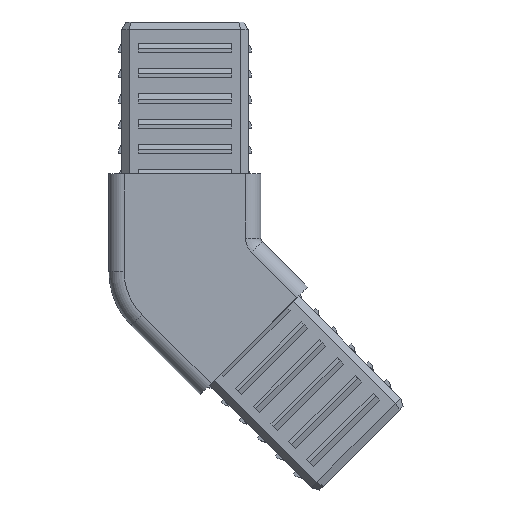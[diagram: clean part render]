
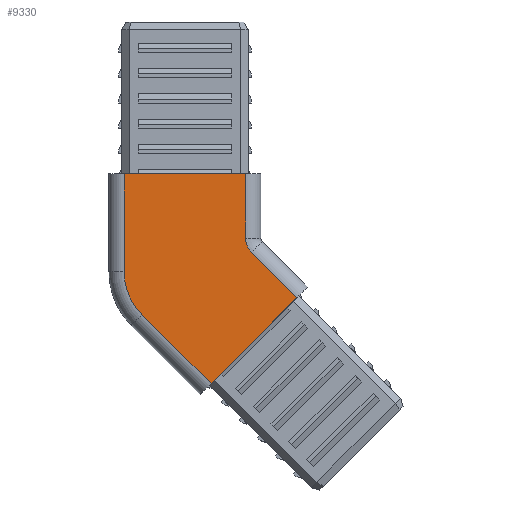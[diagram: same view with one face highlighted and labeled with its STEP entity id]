
A CAD part, top view. The second image highlights one B-rep face of the part: STEP entity #9330.
In plain terms, the highlighted planar face has unit normal (0, 0, 1).
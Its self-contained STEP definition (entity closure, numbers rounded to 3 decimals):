
#59 = DIRECTION ( 'NONE',  ( -1., 0., 0. ) ) ;
#88 = ORIENTED_EDGE ( 'NONE', *, *, #5025, .T. ) ;
#168 = VECTOR ( 'NONE', #6412, 1000. ) ;
#319 = CARTESIAN_POINT ( 'NONE',  ( -12., -1.199, 15. ) ) ;
#425 = VECTOR ( 'NONE', #6638, 1000. ) ;
#428 = VERTEX_POINT ( 'NONE', #319 ) ;
#838 = LINE ( 'NONE', #5176, #7056 ) ;
#897 = ORIENTED_EDGE ( 'NONE', *, *, #8612, .T. ) ;
#1193 = LINE ( 'NONE', #5574, #4576 ) ;
#1349 = EDGE_CURVE ( 'NONE', #2351, #8140, #1193, .T. ) ;
#1389 = EDGE_CURVE ( 'NONE', #8140, #8966, #8306, .T. ) ;
#1645 = EDGE_CURVE ( 'NONE', #428, #3602, #7737, .T. ) ;
#2031 = ORIENTED_EDGE ( 'NONE', *, *, #1389, .T. ) ;
#2145 = DIRECTION ( 'NONE',  ( 0., 0., -1. ) ) ;
#2351 = VERTEX_POINT ( 'NONE', #8792 ) ;
#2357 = EDGE_CURVE ( 'NONE', #2351, #3856, #8325, .T. ) ;
#2411 = AXIS2_PLACEMENT_3D ( 'NONE', #6803, #7600, #8922 ) ;
#2649 = EDGE_CURVE ( 'NONE', #6543, #428, #5392, .T. ) ;
#2854 = VECTOR ( 'NONE', #4629, 1000. ) ;
#3010 = AXIS2_PLACEMENT_3D ( 'NONE', #9358, #2145, #59 ) ;
#3098 = LINE ( 'NONE', #8017, #4229 ) ;
#3179 = CARTESIAN_POINT ( 'NONE',  ( 0., -1.199, 15. ) ) ;
#3602 = VERTEX_POINT ( 'NONE', #7183 ) ;
#3624 = ORIENTED_EDGE ( 'NONE', *, *, #1645, .T. ) ;
#3629 = EDGE_LOOP ( 'NONE', ( #4826, #8826, #2031, #6940, #88, #6903, #3624, #897 ) ) ;
#3856 = VERTEX_POINT ( 'NONE', #7454 ) ;
#3937 = PLANE ( 'NONE',  #2411 ) ;
#4228 = EDGE_CURVE ( 'NONE', #8966, #9034, #3098, .T. ) ;
#4229 = VECTOR ( 'NONE', #7345, 1000. ) ;
#4436 = FACE_OUTER_BOUND ( 'NONE', #3629, .T. ) ;
#4574 = DIRECTION ( 'NONE',  ( 0., 0., 1. ) ) ;
#4576 = VECTOR ( 'NONE', #5664, 1000. ) ;
#4629 = DIRECTION ( 'NONE',  ( -1., 0., 0. ) ) ;
#4793 = LINE ( 'NONE', #8944, #2854 ) ;
#4826 = ORIENTED_EDGE ( 'NONE', *, *, #2357, .F. ) ;
#4835 = AXIS2_PLACEMENT_3D ( 'NONE', #3179, #4574, #6770 ) ;
#5025 = EDGE_CURVE ( 'NONE', #9034, #6543, #4793, .T. ) ;
#5176 = CARTESIAN_POINT ( 'NONE',  ( -9.085, -9.085, 15. ) ) ;
#5258 = DIRECTION ( 'NONE',  ( 0.707, -0.707, 0. ) ) ;
#5392 = LINE ( 'NONE', #9247, #168 ) ;
#5491 = CARTESIAN_POINT ( 'NONE',  ( 13.172, 2.6, 15. ) ) ;
#5574 = CARTESIAN_POINT ( 'NONE',  ( 7.886, 7.886, 15. ) ) ;
#5664 = DIRECTION ( 'NONE',  ( -0.707, 0.707, 0. ) ) ;
#6412 = DIRECTION ( 'NONE',  ( 0., -1., 0. ) ) ;
#6543 = VERTEX_POINT ( 'NONE', #7815 ) ;
#6638 = DIRECTION ( 'NONE',  ( -0.707, -0.707, 0. ) ) ;
#6770 = DIRECTION ( 'NONE',  ( -1., 0., 0. ) ) ;
#6803 = CARTESIAN_POINT ( 'NONE',  ( 0., 0., 15. ) ) ;
#6903 = ORIENTED_EDGE ( 'NONE', *, *, #2649, .T. ) ;
#6940 = ORIENTED_EDGE ( 'NONE', *, *, #4228, .T. ) ;
#7056 = VECTOR ( 'NONE', #5258, 1000. ) ;
#7078 = CARTESIAN_POINT ( 'NONE',  ( 12., 18.1, 15. ) ) ;
#7183 = CARTESIAN_POINT ( 'NONE',  ( -8.485, -9.684, 15. ) ) ;
#7331 = CARTESIAN_POINT ( 'NONE',  ( 3.04, -25.452, 15. ) ) ;
#7345 = DIRECTION ( 'NONE',  ( 0., 1., 0. ) ) ;
#7454 = CARTESIAN_POINT ( 'NONE',  ( 5.161, -23.33, 15. ) ) ;
#7600 = DIRECTION ( 'NONE',  ( 0., 0., -1. ) ) ;
#7737 = CIRCLE ( 'NONE', #4835, 12. ) ;
#7815 = CARTESIAN_POINT ( 'NONE',  ( -12., 18.1, 15. ) ) ;
#8017 = CARTESIAN_POINT ( 'NONE',  ( 12., 0., 15. ) ) ;
#8140 = VERTEX_POINT ( 'NONE', #5491 ) ;
#8306 = CIRCLE ( 'NONE', #3010, 4. ) ;
#8325 = LINE ( 'NONE', #7331, #425 ) ;
#8495 = CARTESIAN_POINT ( 'NONE',  ( 12., 5.429, 15. ) ) ;
#8612 = EDGE_CURVE ( 'NONE', #3602, #3856, #838, .T. ) ;
#8792 = CARTESIAN_POINT ( 'NONE',  ( 22.132, -6.36, 15. ) ) ;
#8826 = ORIENTED_EDGE ( 'NONE', *, *, #1349, .T. ) ;
#8922 = DIRECTION ( 'NONE',  ( -1., 0., 0. ) ) ;
#8944 = CARTESIAN_POINT ( 'NONE',  ( -15., 18.1, 15. ) ) ;
#8966 = VERTEX_POINT ( 'NONE', #8495 ) ;
#9034 = VERTEX_POINT ( 'NONE', #7078 ) ;
#9247 = CARTESIAN_POINT ( 'NONE',  ( -12., 0., 15. ) ) ;
#9330 = ADVANCED_FACE ( 'NONE', ( #4436 ), #3937, .F. ) ;
#9358 = CARTESIAN_POINT ( 'NONE',  ( 16., 5.429, 15. ) ) ;
